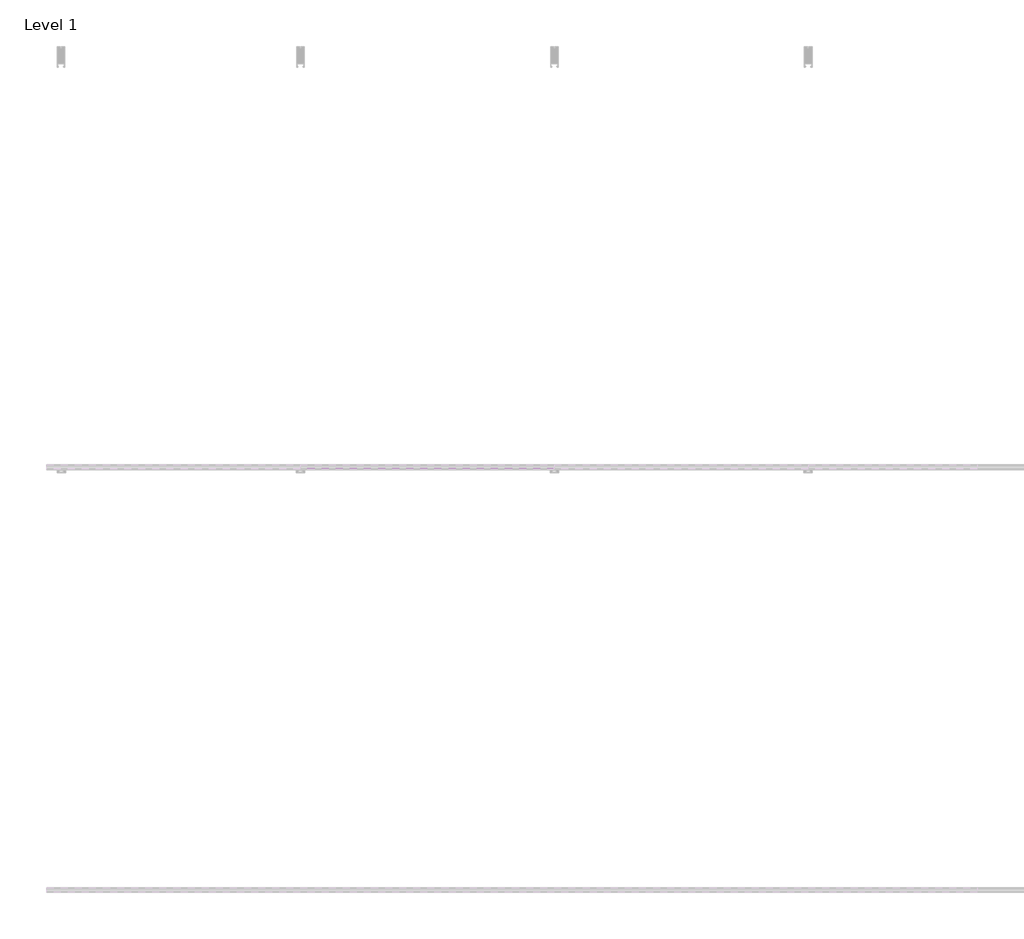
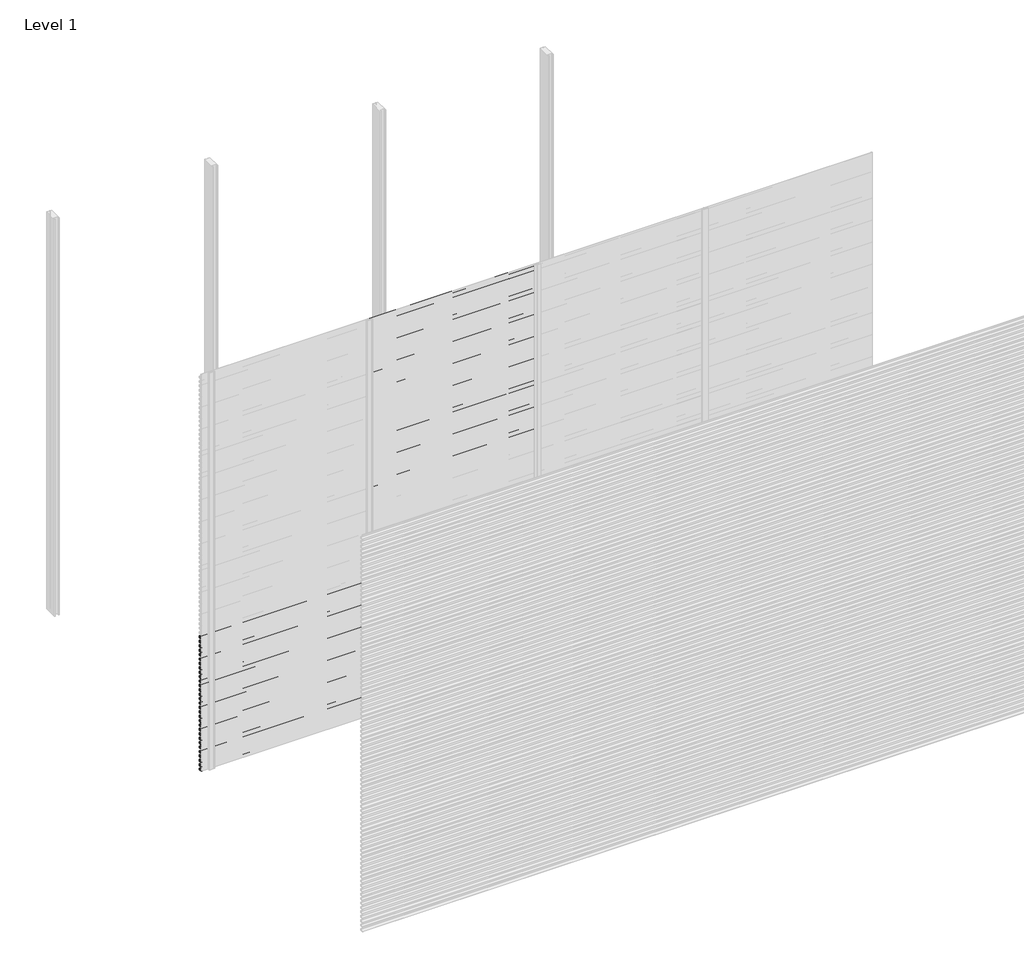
# One storey, part 43 of 77: 72 proxies.
"""IFC4 building model written with IfcOpenShell, lengths in millimetres."""

from ifc_helpers import new_model, si_unit, frame, origin, place, context, project, spatial, polyline, outline, extrude, element, save

model = new_model("IFC4")

# Units and contexts
model_context = context("Model", 3, world=origin())
ifc_project = project(units=[si_unit("LENGTHUNIT", "METRE", prefix="MILLI")], contexts=[model_context])

# Site, building, storey
site = spatial("IfcSite", under=ifc_project)
building = spatial("IfcBuilding", under=site)
storey = spatial("IfcBuildingStorey", under=building, Name="Level 1", Elevation=0.0)

# Proxies
placement = place(None, origin())
element("IfcBuildingElementProxy", 1, Name="Wall Sweeps", at=placement, inside=storey, context=model_context, shape_type="SweptSolid", body=[
    extrude(outline(polyline([(-23978.6, 1007.8359887), (-23998.0, 1019.0366691), (-23998.0, 1032.3), (-23997.0, 1032.3), (-23997.0, 1019.6191057), (-23977.6, 1008.4185105), (-23977.6, 994.8185105), (-23978.6, 996.3953129), (-23978.6, 1002.2032062), (-23995.9773817, 994.1), (-23996.4, 995.0063078), (-23978.6, 1003.3065841), (-23978.6, 1007.8359887)])), frame((0.0, 0.0, 0.0), z_axis=(1.0, 0.0, 0.0), x_axis=(0.0, 1.0, 0.0)), (0.0, 0.0, 1.0), 1200.0),
])
element("IfcBuildingElementProxy", 2, Name="Wall Sweeps", at=placement, inside=storey, context=model_context, shape_type="SweptSolid", body=[
    extrude(outline(polyline([(-23978.6, 974.5359887), (-23998.0, 985.7366691), (-23998.0, 999.0), (-23997.0, 999.0), (-23997.0, 986.3191057), (-23977.6, 975.1185105), (-23977.6, 961.5185105), (-23978.6, 963.0953129), (-23978.6, 968.9032062), (-23995.9773817, 960.8), (-23996.4, 961.7063078), (-23978.6, 970.0065841), (-23978.6, 974.5359887)])), frame((0.0, 0.0, 0.0), z_axis=(1.0, 0.0, 0.0), x_axis=(0.0, 1.0, 0.0)), (0.0, 0.0, 1.0), 1200.0),
])
element("IfcBuildingElementProxy", 3, Name="Wall Sweeps", at=placement, inside=storey, context=model_context, shape_type="SweptSolid", body=[
    extrude(outline(polyline([(-23978.6, 941.2359887), (-23998.0, 952.4366691), (-23998.0, 965.7), (-23997.0, 965.7), (-23997.0, 953.0191057), (-23977.6, 941.8185105), (-23977.6, 928.2185105), (-23978.6, 929.7953129), (-23978.6, 935.6032062), (-23995.9773817, 927.5), (-23996.4, 928.4063078), (-23978.6, 936.7065841), (-23978.6, 941.2359887)])), frame((0.0, 0.0, 0.0), z_axis=(1.0, 0.0, 0.0), x_axis=(0.0, 1.0, 0.0)), (0.0, 0.0, 1.0), 1200.0),
])
element("IfcBuildingElementProxy", 4, Name="Wall Sweeps", at=placement, inside=storey, context=model_context, shape_type="SweptSolid", body=[
    extrude(outline(polyline([(-23978.6, 907.9359887), (-23998.0, 919.1366691), (-23998.0, 932.4), (-23997.0, 932.4), (-23997.0, 919.7191057), (-23977.6, 908.5185105), (-23977.6, 894.9185105), (-23978.6, 896.4953129), (-23978.6, 902.3032062), (-23995.9773817, 894.2), (-23996.4, 895.1063078), (-23978.6, 903.4065841), (-23978.6, 907.9359887)])), frame((0.0, 0.0, 0.0), z_axis=(1.0, 0.0, 0.0), x_axis=(0.0, 1.0, 0.0)), (0.0, 0.0, 1.0), 1200.0),
])
element("IfcBuildingElementProxy", 5, Name="Wall Sweeps", at=placement, inside=storey, context=model_context, shape_type="SweptSolid", body=[
    extrude(outline(polyline([(-23978.6, 874.6359887), (-23998.0, 885.8366691), (-23998.0, 899.1), (-23997.0, 899.1), (-23997.0, 886.4191057), (-23977.6, 875.2185105), (-23977.6, 861.6185105), (-23978.6, 863.1953129), (-23978.6, 869.0032062), (-23995.9773817, 860.9), (-23996.4, 861.8063078), (-23978.6, 870.1065841), (-23978.6, 874.6359887)])), frame((0.0, 0.0, 0.0), z_axis=(1.0, 0.0, 0.0), x_axis=(0.0, 1.0, 0.0)), (0.0, 0.0, 1.0), 1200.0),
])
element("IfcBuildingElementProxy", 6, Name="Wall Sweeps", at=placement, inside=storey, context=model_context, shape_type="SweptSolid", body=[
    extrude(outline(polyline([(-23978.6, 841.3359887), (-23998.0, 852.5366691), (-23998.0, 865.8), (-23997.0, 865.8), (-23997.0, 853.1191057), (-23977.6, 841.9185105), (-23977.6, 828.3185105), (-23978.6, 829.8953129), (-23978.6, 835.7032062), (-23995.9773817, 827.6), (-23996.4, 828.5063078), (-23978.6, 836.8065841), (-23978.6, 841.3359887)])), frame((0.0, 0.0, 0.0), z_axis=(1.0, 0.0, 0.0), x_axis=(0.0, 1.0, 0.0)), (0.0, 0.0, 1.0), 1200.0),
])
element("IfcBuildingElementProxy", 7, Name="Wall Sweeps", at=placement, inside=storey, context=model_context, shape_type="SweptSolid", body=[
    extrude(outline(polyline([(-23978.6, 808.0359887), (-23998.0, 819.2366691), (-23998.0, 832.5), (-23997.0, 832.5), (-23997.0, 819.8191057), (-23977.6, 808.6185105), (-23977.6, 795.0185105), (-23978.6, 796.5953129), (-23978.6, 802.4032062), (-23995.9773817, 794.3), (-23996.4, 795.2063078), (-23978.6, 803.5065841), (-23978.6, 808.0359887)])), frame((0.0, 0.0, 0.0), z_axis=(1.0, 0.0, 0.0), x_axis=(0.0, 1.0, 0.0)), (0.0, 0.0, 1.0), 1200.0),
])
element("IfcBuildingElementProxy", 8, Name="Wall Sweeps", at=placement, inside=storey, context=model_context, shape_type="SweptSolid", body=[
    extrude(outline(polyline([(-23978.6, 774.7359887), (-23998.0, 785.9366691), (-23998.0, 799.2), (-23997.0, 799.2), (-23997.0, 786.5191057), (-23977.6, 775.3185105), (-23977.6, 761.7185105), (-23978.6, 763.2953129), (-23978.6, 769.1032062), (-23995.9773817, 761.0), (-23996.4, 761.9063078), (-23978.6, 770.2065841), (-23978.6, 774.7359887)])), frame((0.0, 0.0, 0.0), z_axis=(1.0, 0.0, 0.0), x_axis=(0.0, 1.0, 0.0)), (0.0, 0.0, 1.0), 1200.0),
])
element("IfcBuildingElementProxy", 9, Name="Wall Sweeps", at=placement, inside=storey, context=model_context, shape_type="SweptSolid", body=[
    extrude(outline(polyline([(-23978.6, 741.4359887), (-23998.0, 752.6366691), (-23998.0, 765.9), (-23997.0, 765.9), (-23997.0, 753.2191057), (-23977.6, 742.0185105), (-23977.6, 728.4185105), (-23978.6, 729.9953129), (-23978.6, 735.8032062), (-23995.9773817, 727.7), (-23996.4, 728.6063078), (-23978.6, 736.9065841), (-23978.6, 741.4359887)])), frame((0.0, 0.0, 0.0), z_axis=(1.0, 0.0, 0.0), x_axis=(0.0, 1.0, 0.0)), (0.0, 0.0, 1.0), 1200.0),
])
element("IfcBuildingElementProxy", 10, Name="Wall Sweeps", at=placement, inside=storey, context=model_context, shape_type="SweptSolid", body=[
    extrude(outline(polyline([(-23978.6, 708.1359887), (-23998.0, 719.3366691), (-23998.0, 732.6), (-23997.0, 732.6), (-23997.0, 719.9191057), (-23977.6, 708.7185105), (-23977.6, 695.1185105), (-23978.6, 696.6953129), (-23978.6, 702.5032062), (-23995.9773817, 694.4), (-23996.4, 695.3063078), (-23978.6, 703.6065841), (-23978.6, 708.1359887)])), frame((0.0, 0.0, 0.0), z_axis=(1.0, 0.0, 0.0), x_axis=(0.0, 1.0, 0.0)), (0.0, 0.0, 1.0), 1200.0),
])
element("IfcBuildingElementProxy", 11, Name="Wall Sweeps", at=placement, inside=storey, context=model_context, shape_type="SweptSolid", body=[
    extrude(outline(polyline([(-23978.6, 674.8359887), (-23998.0, 686.0366691), (-23998.0, 699.3), (-23997.0, 699.3), (-23997.0, 686.6191057), (-23977.6, 675.4185105), (-23977.6, 661.8185105), (-23978.6, 663.3953129), (-23978.6, 669.2032062), (-23995.9773817, 661.1), (-23996.4, 662.0063078), (-23978.6, 670.3065841), (-23978.6, 674.8359887)])), frame((0.0, 0.0, 0.0), z_axis=(1.0, 0.0, 0.0), x_axis=(0.0, 1.0, 0.0)), (0.0, 0.0, 1.0), 1200.0),
])
element("IfcBuildingElementProxy", 12, Name="Wall Sweeps", at=placement, inside=storey, context=model_context, shape_type="SweptSolid", body=[
    extrude(outline(polyline([(-23978.6, 641.5359887), (-23998.0, 652.7366691), (-23998.0, 666.0), (-23997.0, 666.0), (-23997.0, 653.3191057), (-23977.6, 642.1185105), (-23977.6, 628.5185105), (-23978.6, 630.0953129), (-23978.6, 635.9032062), (-23995.9773817, 627.8), (-23996.4, 628.7063078), (-23978.6, 637.0065841), (-23978.6, 641.5359887)])), frame((0.0, 0.0, 0.0), z_axis=(1.0, 0.0, 0.0), x_axis=(0.0, 1.0, 0.0)), (0.0, 0.0, 1.0), 1200.0),
])
element("IfcBuildingElementProxy", 13, Name="Wall Sweeps", at=placement, inside=storey, context=model_context, shape_type="SweptSolid", body=[
    extrude(outline(polyline([(-23978.6, 608.2359887), (-23998.0, 619.4366691), (-23998.0, 632.7), (-23997.0, 632.7), (-23997.0, 620.0191057), (-23977.6, 608.8185105), (-23977.6, 595.2185105), (-23978.6, 596.7953129), (-23978.6, 602.6032062), (-23995.9773817, 594.5), (-23996.4, 595.4063078), (-23978.6, 603.7065841), (-23978.6, 608.2359887)])), frame((0.0, 0.0, 0.0), z_axis=(1.0, 0.0, 0.0), x_axis=(0.0, 1.0, 0.0)), (0.0, 0.0, 1.0), 1200.0),
])
element("IfcBuildingElementProxy", 14, Name="Wall Sweeps", at=placement, inside=storey, context=model_context, shape_type="SweptSolid", body=[
    extrude(outline(polyline([(-23978.6, 574.9359887), (-23998.0, 586.1366691), (-23998.0, 599.4), (-23997.0, 599.4), (-23997.0, 586.7191057), (-23977.6, 575.5185105), (-23977.6, 561.9185105), (-23978.6, 563.4953129), (-23978.6, 569.3032062), (-23995.9773817, 561.2), (-23996.4, 562.1063078), (-23978.6, 570.4065841), (-23978.6, 574.9359887)])), frame((0.0, 0.0, 0.0), z_axis=(1.0, 0.0, 0.0), x_axis=(0.0, 1.0, 0.0)), (0.0, 0.0, 1.0), 1200.0),
])
element("IfcBuildingElementProxy", 15, Name="Wall Sweeps", at=placement, inside=storey, context=model_context, shape_type="SweptSolid", body=[
    extrude(outline(polyline([(-23978.6, 541.6359887), (-23998.0, 552.8366691), (-23998.0, 566.1), (-23997.0, 566.1), (-23997.0, 553.4191057), (-23977.6, 542.2185105), (-23977.6, 528.6185105), (-23978.6, 530.1953129), (-23978.6, 536.0032062), (-23995.9773817, 527.9), (-23996.4, 528.8063078), (-23978.6, 537.1065841), (-23978.6, 541.6359887)])), frame((0.0, 0.0, 0.0), z_axis=(1.0, 0.0, 0.0), x_axis=(0.0, 1.0, 0.0)), (0.0, 0.0, 1.0), 1200.0),
])
element("IfcBuildingElementProxy", 16, Name="Wall Sweeps", at=placement, inside=storey, context=model_context, shape_type="SweptSolid", body=[
    extrude(outline(polyline([(-23978.6, 508.3359887), (-23998.0, 519.5366691), (-23998.0, 532.8), (-23997.0, 532.8), (-23997.0, 520.1191057), (-23977.6, 508.9185105), (-23977.6, 495.3185105), (-23978.6, 496.8953129), (-23978.6, 502.7032062), (-23995.9773817, 494.6), (-23996.4, 495.5063078), (-23978.6, 503.8065841), (-23978.6, 508.3359887)])), frame((0.0, 0.0, 0.0), z_axis=(1.0, 0.0, 0.0), x_axis=(0.0, 1.0, 0.0)), (0.0, 0.0, 1.0), 1200.0),
])
element("IfcBuildingElementProxy", 17, Name="Wall Sweeps", at=placement, inside=storey, context=model_context, shape_type="SweptSolid", body=[
    extrude(outline(polyline([(-23978.6, 475.0359887), (-23998.0, 486.2366691), (-23998.0, 499.5), (-23997.0, 499.5), (-23997.0, 486.8191057), (-23977.6, 475.6185105), (-23977.6, 462.0185105), (-23978.6, 463.5953129), (-23978.6, 469.4032062), (-23995.9773817, 461.3), (-23996.4, 462.2063078), (-23978.6, 470.5065841), (-23978.6, 475.0359887)])), frame((0.0, 0.0, 0.0), z_axis=(1.0, 0.0, 0.0), x_axis=(0.0, 1.0, 0.0)), (0.0, 0.0, 1.0), 1200.0),
])
element("IfcBuildingElementProxy", 18, Name="Wall Sweeps", at=placement, inside=storey, context=model_context, shape_type="SweptSolid", body=[
    extrude(outline(polyline([(-23978.6, 441.7359887), (-23998.0, 452.9366691), (-23998.0, 466.2), (-23997.0, 466.2), (-23997.0, 453.5191057), (-23977.6, 442.3185105), (-23977.6, 428.7185105), (-23978.6, 430.2953129), (-23978.6, 436.1032062), (-23995.9773817, 428.0), (-23996.4, 428.9063078), (-23978.6, 437.2065841), (-23978.6, 441.7359887)])), frame((0.0, 0.0, 0.0), z_axis=(1.0, 0.0, 0.0), x_axis=(0.0, 1.0, 0.0)), (0.0, 0.0, 1.0), 1200.0),
])
element("IfcBuildingElementProxy", 19, Name="Wall Sweeps", at=placement, inside=storey, context=model_context, shape_type="SweptSolid", body=[
    extrude(outline(polyline([(-23978.6, 408.4359887), (-23998.0, 419.6366691), (-23998.0, 432.9), (-23997.0, 432.9), (-23997.0, 420.2191057), (-23977.6, 409.0185105), (-23977.6, 395.4185105), (-23978.6, 396.9953129), (-23978.6, 402.8032062), (-23995.9773817, 394.7), (-23996.4, 395.6063078), (-23978.6, 403.9065841), (-23978.6, 408.4359887)])), frame((0.0, 0.0, 0.0), z_axis=(1.0, 0.0, 0.0), x_axis=(0.0, 1.0, 0.0)), (0.0, 0.0, 1.0), 1200.0),
])
element("IfcBuildingElementProxy", 20, Name="Wall Sweeps", at=placement, inside=storey, context=model_context, shape_type="SweptSolid", body=[
    extrude(outline(polyline([(-23978.6, 375.1359887), (-23998.0, 386.3366691), (-23998.0, 399.6), (-23997.0, 399.6), (-23997.0, 386.9191057), (-23977.6, 375.7185105), (-23977.6, 362.1185105), (-23978.6, 363.6953129), (-23978.6, 369.5032062), (-23995.9773817, 361.4), (-23996.4, 362.3063078), (-23978.6, 370.6065841), (-23978.6, 375.1359887)])), frame((0.0, 0.0, 0.0), z_axis=(1.0, 0.0, 0.0), x_axis=(0.0, 1.0, 0.0)), (0.0, 0.0, 1.0), 1200.0),
])
element("IfcBuildingElementProxy", 21, Name="Wall Sweeps", at=placement, inside=storey, context=model_context, shape_type="SweptSolid", body=[
    extrude(outline(polyline([(-23978.6, 341.8359887), (-23998.0, 353.0366691), (-23998.0, 366.3), (-23997.0, 366.3), (-23997.0, 353.6191057), (-23977.6, 342.4185105), (-23977.6, 328.8185105), (-23978.6, 330.3953129), (-23978.6, 336.2032062), (-23995.9773817, 328.1), (-23996.4, 329.0063078), (-23978.6, 337.3065841), (-23978.6, 341.8359887)])), frame((0.0, 0.0, 0.0), z_axis=(1.0, 0.0, 0.0), x_axis=(0.0, 1.0, 0.0)), (0.0, 0.0, 1.0), 1200.0),
])
element("IfcBuildingElementProxy", 22, Name="Wall Sweeps", at=placement, inside=storey, context=model_context, shape_type="SweptSolid", body=[
    extrude(outline(polyline([(-23978.6, 308.5359887), (-23998.0, 319.7366691), (-23998.0, 333.0), (-23997.0, 333.0), (-23997.0, 320.3191057), (-23977.6, 309.1185105), (-23977.6, 295.5185105), (-23978.6, 297.0953129), (-23978.6, 302.9032062), (-23995.9773817, 294.8), (-23996.4, 295.7063078), (-23978.6, 304.0065841), (-23978.6, 308.5359887)])), frame((0.0, 0.0, 0.0), z_axis=(1.0, 0.0, 0.0), x_axis=(0.0, 1.0, 0.0)), (0.0, 0.0, 1.0), 1200.0),
])
element("IfcBuildingElementProxy", 23, Name="Wall Sweeps", at=placement, inside=storey, context=model_context, shape_type="SweptSolid", body=[
    extrude(outline(polyline([(-23978.6, 275.2359887), (-23998.0, 286.4366691), (-23998.0, 299.7), (-23997.0, 299.7), (-23997.0, 287.0191057), (-23977.6, 275.8185105), (-23977.6, 262.2185105), (-23978.6, 263.7953129), (-23978.6, 269.6032062), (-23995.9773817, 261.5), (-23996.4, 262.4063078), (-23978.6, 270.7065841), (-23978.6, 275.2359887)])), frame((0.0, 0.0, 0.0), z_axis=(1.0, 0.0, 0.0), x_axis=(0.0, 1.0, 0.0)), (0.0, 0.0, 1.0), 1200.0),
])
element("IfcBuildingElementProxy", 24, Name="Wall Sweeps", at=placement, inside=storey, context=model_context, shape_type="SweptSolid", body=[
    extrude(outline(polyline([(-23978.6, 241.9359887), (-23998.0, 253.1366691), (-23998.0, 266.4), (-23997.0, 266.4), (-23997.0, 253.7191057), (-23977.6, 242.5185105), (-23977.6, 228.9185105), (-23978.6, 230.4953129), (-23978.6, 236.3032062), (-23995.9773817, 228.2), (-23996.4, 229.1063078), (-23978.6, 237.4065841), (-23978.6, 241.9359887)])), frame((0.0, 0.0, 0.0), z_axis=(1.0, 0.0, 0.0), x_axis=(0.0, 1.0, 0.0)), (0.0, 0.0, 1.0), 1200.0),
])
element("IfcBuildingElementProxy", 25, Name="Wall Sweeps", at=placement, inside=storey, context=model_context, shape_type="SweptSolid", body=[
    extrude(outline(polyline([(-23978.6, 208.6359887), (-23998.0, 219.8366691), (-23998.0, 233.1), (-23997.0, 233.1), (-23997.0, 220.4191057), (-23977.6, 209.2185105), (-23977.6, 195.6185105), (-23978.6, 197.1953129), (-23978.6, 203.0032062), (-23995.9773817, 194.9), (-23996.4, 195.8063078), (-23978.6, 204.1065841), (-23978.6, 208.6359887)])), frame((0.0, 0.0, 0.0), z_axis=(1.0, 0.0, 0.0), x_axis=(0.0, 1.0, 0.0)), (0.0, 0.0, 1.0), 1200.0),
])
element("IfcBuildingElementProxy", 26, Name="Wall Sweeps", at=placement, inside=storey, context=model_context, shape_type="SweptSolid", body=[
    extrude(outline(polyline([(-23978.6, 175.3359887), (-23998.0, 186.5366691), (-23998.0, 199.8), (-23997.0, 199.8), (-23997.0, 187.1191057), (-23977.6, 175.9185105), (-23977.6, 162.3185105), (-23978.6, 163.8953129), (-23978.6, 169.7032062), (-23995.9773817, 161.6), (-23996.4, 162.5063078), (-23978.6, 170.8065841), (-23978.6, 175.3359887)])), frame((0.0, 0.0, 0.0), z_axis=(1.0, 0.0, 0.0), x_axis=(0.0, 1.0, 0.0)), (0.0, 0.0, 1.0), 1200.0),
])
element("IfcBuildingElementProxy", 27, Name="Wall Sweeps", at=placement, inside=storey, context=model_context, shape_type="SweptSolid", body=[
    extrude(outline(polyline([(-23978.6, 142.0359887), (-23998.0, 153.2366691), (-23998.0, 166.5), (-23997.0, 166.5), (-23997.0, 153.8191057), (-23977.6, 142.6185105), (-23977.6, 129.0185105), (-23978.6, 130.5953129), (-23978.6, 136.4032062), (-23995.9773817, 128.3), (-23996.4, 129.2063078), (-23978.6, 137.5065841), (-23978.6, 142.0359887)])), frame((0.0, 0.0, 0.0), z_axis=(1.0, 0.0, 0.0), x_axis=(0.0, 1.0, 0.0)), (0.0, 0.0, 1.0), 1200.0),
])
element("IfcBuildingElementProxy", 28, Name="Wall Sweeps", at=placement, inside=storey, context=model_context, shape_type="SweptSolid", body=[
    extrude(outline(polyline([(-23978.6, 108.7359887), (-23998.0, 119.9366691), (-23998.0, 133.2), (-23997.0, 133.2), (-23997.0, 120.5191057), (-23977.6, 109.3185105), (-23977.6, 95.7185105), (-23978.6, 97.2953129), (-23978.6, 103.1032062), (-23995.9773817, 95.0), (-23996.4, 95.9063078), (-23978.6, 104.2065841), (-23978.6, 108.7359887)])), frame((0.0, 0.0, 0.0), z_axis=(1.0, 0.0, 0.0), x_axis=(0.0, 1.0, 0.0)), (0.0, 0.0, 1.0), 1200.0),
])
element("IfcBuildingElementProxy", 29, Name="Wall Sweeps", at=placement, inside=storey, context=model_context, shape_type="SweptSolid", body=[
    extrude(outline(polyline([(-23978.6, 75.4359887), (-23998.0, 86.6366691), (-23998.0, 99.9), (-23997.0, 99.9), (-23997.0, 87.2191057), (-23977.6, 76.0185105), (-23977.6, 62.4185105), (-23978.6, 63.9953129), (-23978.6, 69.8032062), (-23995.9773817, 61.7), (-23996.4, 62.6063078), (-23978.6, 70.9065841), (-23978.6, 75.4359887)])), frame((0.0, 0.0, 0.0), z_axis=(1.0, 0.0, 0.0), x_axis=(0.0, 1.0, 0.0)), (0.0, 0.0, 1.0), 1200.0),
])
element("IfcBuildingElementProxy", 30, Name="Wall Sweeps", at=placement, inside=storey, context=model_context, shape_type="SweptSolid", body=[
    extrude(outline(polyline([(-23978.6, 42.1359887), (-23998.0, 53.3366691), (-23998.0, 66.6), (-23997.0, 66.6), (-23997.0, 53.9191057), (-23977.6, 42.7185105), (-23977.6, 29.1185105), (-23978.6, 30.6953129), (-23978.6, 36.5032062), (-23995.9773817, 28.4), (-23996.4, 29.3063078), (-23978.6, 37.6065841), (-23978.6, 42.1359887)])), frame((0.0, 0.0, 0.0), z_axis=(1.0, 0.0, 0.0), x_axis=(0.0, 1.0, 0.0)), (0.0, 0.0, 1.0), 1200.0),
])
element("IfcBuildingElementProxy", 31, Name="Wall Sweeps", at=placement, inside=storey, context=model_context, shape_type="SweptSolid", body=[
    extrude(outline(polyline([(-23978.6, 8.8359887), (-23998.0, 20.0366691), (-23998.0, 33.3), (-23997.0, 33.3), (-23997.0, 20.6191057), (-23977.6, 9.4185105), (-23977.6, -4.1814895), (-23978.6, -2.6046871), (-23978.6, 3.2032062), (-23995.9773817, -4.9), (-23996.4, -3.9936922), (-23978.6, 4.3065841), (-23978.6, 8.8359887)])), frame((0.0, 0.0, 0.0), z_axis=(1.0, 0.0, 0.0), x_axis=(0.0, 1.0, 0.0)), (0.0, 0.0, 1.0), 1200.0),
])
element("IfcBuildingElementProxy", 32, Name="Wall Sweeps", at=placement, inside=storey, context=model_context, shape_type="SweptSolid", body=[
    extrude(outline(polyline([(-23978.6, 2972.5359887), (-23998.0, 2983.7366691), (-23998.0, 2997.0), (-23997.0, 2997.0), (-23997.0, 2984.3191057), (-23977.6, 2973.1185105), (-23977.6, 2959.5185105), (-23978.6, 2961.0953129), (-23978.6, 2966.9032062), (-23995.9773817, 2958.8), (-23996.4, 2959.7063078), (-23978.6, 2968.0065841), (-23978.6, 2972.5359887)])), frame((1200.0, 0.0, 0.0), z_axis=(1.0, 0.0, 0.0), x_axis=(0.0, 1.0, 0.0)), (0.0, 0.0, 1.0), 1200.0),
])
element("IfcBuildingElementProxy", 33, Name="Wall Sweeps", at=placement, inside=storey, context=model_context, shape_type="SweptSolid", body=[
    extrude(outline(polyline([(-23978.6, 2939.2359887), (-23998.0, 2950.4366691), (-23998.0, 2963.7), (-23997.0, 2963.7), (-23997.0, 2951.0191057), (-23977.6, 2939.8185105), (-23977.6, 2926.2185105), (-23978.6, 2927.7953129), (-23978.6, 2933.6032062), (-23995.9773817, 2925.5), (-23996.4, 2926.4063078), (-23978.6, 2934.7065841), (-23978.6, 2939.2359887)])), frame((1200.0, 0.0, 0.0), z_axis=(1.0, 0.0, 0.0), x_axis=(0.0, 1.0, 0.0)), (0.0, 0.0, 1.0), 1200.0),
])
element("IfcBuildingElementProxy", 34, Name="Wall Sweeps", at=placement, inside=storey, context=model_context, shape_type="SweptSolid", body=[
    extrude(outline(polyline([(-23978.6, 2905.9359887), (-23998.0, 2917.1366691), (-23998.0, 2930.4), (-23997.0, 2930.4), (-23997.0, 2917.7191057), (-23977.6, 2906.5185105), (-23977.6, 2892.9185105), (-23978.6, 2894.4953129), (-23978.6, 2900.3032062), (-23995.9773817, 2892.2), (-23996.4, 2893.1063078), (-23978.6, 2901.4065841), (-23978.6, 2905.9359887)])), frame((1200.0, 0.0, 0.0), z_axis=(1.0, 0.0, 0.0), x_axis=(0.0, 1.0, 0.0)), (0.0, 0.0, 1.0), 1200.0),
])
element("IfcBuildingElementProxy", 35, Name="Wall Sweeps", at=placement, inside=storey, context=model_context, shape_type="SweptSolid", body=[
    extrude(outline(polyline([(-23978.6, 2872.6359887), (-23998.0, 2883.8366691), (-23998.0, 2897.1), (-23997.0, 2897.1), (-23997.0, 2884.4191057), (-23977.6, 2873.2185105), (-23977.6, 2859.6185105), (-23978.6, 2861.1953129), (-23978.6, 2867.0032062), (-23995.9773817, 2858.9), (-23996.4, 2859.8063078), (-23978.6, 2868.1065841), (-23978.6, 2872.6359887)])), frame((1200.0, 0.0, 0.0), z_axis=(1.0, 0.0, 0.0), x_axis=(0.0, 1.0, 0.0)), (0.0, 0.0, 1.0), 1200.0),
])
element("IfcBuildingElementProxy", 36, Name="Wall Sweeps", at=placement, inside=storey, context=model_context, shape_type="SweptSolid", body=[
    extrude(outline(polyline([(-23978.6, 2839.3359887), (-23998.0, 2850.5366691), (-23998.0, 2863.8), (-23997.0, 2863.8), (-23997.0, 2851.1191057), (-23977.6, 2839.9185105), (-23977.6, 2826.3185105), (-23978.6, 2827.8953129), (-23978.6, 2833.7032062), (-23995.9773817, 2825.6), (-23996.4, 2826.5063078), (-23978.6, 2834.8065841), (-23978.6, 2839.3359887)])), frame((1200.0, 0.0, 0.0), z_axis=(1.0, 0.0, 0.0), x_axis=(0.0, 1.0, 0.0)), (0.0, 0.0, 1.0), 1200.0),
])
element("IfcBuildingElementProxy", 37, Name="Wall Sweeps", at=placement, inside=storey, context=model_context, shape_type="SweptSolid", body=[
    extrude(outline(polyline([(-23978.6, 2806.0359887), (-23998.0, 2817.2366691), (-23998.0, 2830.5), (-23997.0, 2830.5), (-23997.0, 2817.8191057), (-23977.6, 2806.6185105), (-23977.6, 2793.0185105), (-23978.6, 2794.5953129), (-23978.6, 2800.4032062), (-23995.9773817, 2792.3), (-23996.4, 2793.2063078), (-23978.6, 2801.5065841), (-23978.6, 2806.0359887)])), frame((1200.0, 0.0, 0.0), z_axis=(1.0, 0.0, 0.0), x_axis=(0.0, 1.0, 0.0)), (0.0, 0.0, 1.0), 1200.0),
])
element("IfcBuildingElementProxy", 38, Name="Wall Sweeps", at=placement, inside=storey, context=model_context, shape_type="SweptSolid", body=[
    extrude(outline(polyline([(-23978.6, 2772.7359887), (-23998.0, 2783.9366691), (-23998.0, 2797.2), (-23997.0, 2797.2), (-23997.0, 2784.5191057), (-23977.6, 2773.3185105), (-23977.6, 2759.7185105), (-23978.6, 2761.2953129), (-23978.6, 2767.1032062), (-23995.9773817, 2759.0), (-23996.4, 2759.9063078), (-23978.6, 2768.2065841), (-23978.6, 2772.7359887)])), frame((1200.0, 0.0, 0.0), z_axis=(1.0, 0.0, 0.0), x_axis=(0.0, 1.0, 0.0)), (0.0, 0.0, 1.0), 1200.0),
])
element("IfcBuildingElementProxy", 39, Name="Wall Sweeps", at=placement, inside=storey, context=model_context, shape_type="SweptSolid", body=[
    extrude(outline(polyline([(-23978.6, 2739.4359887), (-23998.0, 2750.6366691), (-23998.0, 2763.9), (-23997.0, 2763.9), (-23997.0, 2751.2191057), (-23977.6, 2740.0185105), (-23977.6, 2726.4185105), (-23978.6, 2727.9953129), (-23978.6, 2733.8032062), (-23995.9773817, 2725.7), (-23996.4, 2726.6063078), (-23978.6, 2734.9065841), (-23978.6, 2739.4359887)])), frame((1200.0, 0.0, 0.0), z_axis=(1.0, 0.0, 0.0), x_axis=(0.0, 1.0, 0.0)), (0.0, 0.0, 1.0), 1200.0),
])
element("IfcBuildingElementProxy", 40, Name="Wall Sweeps", at=placement, inside=storey, context=model_context, shape_type="SweptSolid", body=[
    extrude(outline(polyline([(-23978.6, 2706.1359887), (-23998.0, 2717.3366691), (-23998.0, 2730.6), (-23997.0, 2730.6), (-23997.0, 2717.9191057), (-23977.6, 2706.7185105), (-23977.6, 2693.1185105), (-23978.6, 2694.6953129), (-23978.6, 2700.5032062), (-23995.9773817, 2692.4), (-23996.4, 2693.3063078), (-23978.6, 2701.6065841), (-23978.6, 2706.1359887)])), frame((1200.0, 0.0, 0.0), z_axis=(1.0, 0.0, 0.0), x_axis=(0.0, 1.0, 0.0)), (0.0, 0.0, 1.0), 1200.0),
])
element("IfcBuildingElementProxy", 41, Name="Wall Sweeps", at=placement, inside=storey, context=model_context, shape_type="SweptSolid", body=[
    extrude(outline(polyline([(-23978.6, 2672.8359887), (-23998.0, 2684.0366691), (-23998.0, 2697.3), (-23997.0, 2697.3), (-23997.0, 2684.6191057), (-23977.6, 2673.4185105), (-23977.6, 2659.8185105), (-23978.6, 2661.3953129), (-23978.6, 2667.2032062), (-23995.9773817, 2659.1), (-23996.4, 2660.0063078), (-23978.6, 2668.3065841), (-23978.6, 2672.8359887)])), frame((1200.0, 0.0, 0.0), z_axis=(1.0, 0.0, 0.0), x_axis=(0.0, 1.0, 0.0)), (0.0, 0.0, 1.0), 1200.0),
])
element("IfcBuildingElementProxy", 42, Name="Wall Sweeps", at=placement, inside=storey, context=model_context, shape_type="SweptSolid", body=[
    extrude(outline(polyline([(-23978.6, 2639.5359887), (-23998.0, 2650.7366691), (-23998.0, 2664.0), (-23997.0, 2664.0), (-23997.0, 2651.3191057), (-23977.6, 2640.1185105), (-23977.6, 2626.5185105), (-23978.6, 2628.0953129), (-23978.6, 2633.9032062), (-23995.9773817, 2625.8), (-23996.4, 2626.7063078), (-23978.6, 2635.0065841), (-23978.6, 2639.5359887)])), frame((1200.0, 0.0, 0.0), z_axis=(1.0, 0.0, 0.0), x_axis=(0.0, 1.0, 0.0)), (0.0, 0.0, 1.0), 1200.0),
])
element("IfcBuildingElementProxy", 43, Name="Wall Sweeps", at=placement, inside=storey, context=model_context, shape_type="SweptSolid", body=[
    extrude(outline(polyline([(-23978.6, 2606.2359887), (-23998.0, 2617.4366691), (-23998.0, 2630.7), (-23997.0, 2630.7), (-23997.0, 2618.0191057), (-23977.6, 2606.8185105), (-23977.6, 2593.2185105), (-23978.6, 2594.7953129), (-23978.6, 2600.6032062), (-23995.9773817, 2592.5), (-23996.4, 2593.4063078), (-23978.6, 2601.7065841), (-23978.6, 2606.2359887)])), frame((1200.0, 0.0, 0.0), z_axis=(1.0, 0.0, 0.0), x_axis=(0.0, 1.0, 0.0)), (0.0, 0.0, 1.0), 1200.0),
])
element("IfcBuildingElementProxy", 44, Name="Wall Sweeps", at=placement, inside=storey, context=model_context, shape_type="SweptSolid", body=[
    extrude(outline(polyline([(-23978.6, 2572.9359887), (-23998.0, 2584.1366691), (-23998.0, 2597.4), (-23997.0, 2597.4), (-23997.0, 2584.7191057), (-23977.6, 2573.5185105), (-23977.6, 2559.9185105), (-23978.6, 2561.4953129), (-23978.6, 2567.3032062), (-23995.9773817, 2559.2), (-23996.4, 2560.1063078), (-23978.6, 2568.4065841), (-23978.6, 2572.9359887)])), frame((1200.0, 0.0, 0.0), z_axis=(1.0, 0.0, 0.0), x_axis=(0.0, 1.0, 0.0)), (0.0, 0.0, 1.0), 1200.0),
])
element("IfcBuildingElementProxy", 45, Name="Wall Sweeps", at=placement, inside=storey, context=model_context, shape_type="SweptSolid", body=[
    extrude(outline(polyline([(-23978.6, 2539.6359887), (-23998.0, 2550.8366691), (-23998.0, 2564.1), (-23997.0, 2564.1), (-23997.0, 2551.4191057), (-23977.6, 2540.2185105), (-23977.6, 2526.6185105), (-23978.6, 2528.1953129), (-23978.6, 2534.0032062), (-23995.9773817, 2525.9), (-23996.4, 2526.8063078), (-23978.6, 2535.1065841), (-23978.6, 2539.6359887)])), frame((1200.0, 0.0, 0.0), z_axis=(1.0, 0.0, 0.0), x_axis=(0.0, 1.0, 0.0)), (0.0, 0.0, 1.0), 1200.0),
])
element("IfcBuildingElementProxy", 46, Name="Wall Sweeps", at=placement, inside=storey, context=model_context, shape_type="SweptSolid", body=[
    extrude(outline(polyline([(-23978.6, 2506.3359887), (-23998.0, 2517.5366691), (-23998.0, 2530.8), (-23997.0, 2530.8), (-23997.0, 2518.1191057), (-23977.6, 2506.9185105), (-23977.6, 2493.3185105), (-23978.6, 2494.8953129), (-23978.6, 2500.7032062), (-23995.9773817, 2492.6), (-23996.4, 2493.5063078), (-23978.6, 2501.8065841), (-23978.6, 2506.3359887)])), frame((1200.0, 0.0, 0.0), z_axis=(1.0, 0.0, 0.0), x_axis=(0.0, 1.0, 0.0)), (0.0, 0.0, 1.0), 1200.0),
])
element("IfcBuildingElementProxy", 47, Name="Wall Sweeps", at=placement, inside=storey, context=model_context, shape_type="SweptSolid", body=[
    extrude(outline(polyline([(-23978.6, 2473.0359887), (-23998.0, 2484.2366691), (-23998.0, 2497.5), (-23997.0, 2497.5), (-23997.0, 2484.8191057), (-23977.6, 2473.6185105), (-23977.6, 2460.0185105), (-23978.6, 2461.5953129), (-23978.6, 2467.4032062), (-23995.9773817, 2459.3), (-23996.4, 2460.2063078), (-23978.6, 2468.5065841), (-23978.6, 2473.0359887)])), frame((1200.0, 0.0, 0.0), z_axis=(1.0, 0.0, 0.0), x_axis=(0.0, 1.0, 0.0)), (0.0, 0.0, 1.0), 1200.0),
])
element("IfcBuildingElementProxy", 48, Name="Wall Sweeps", at=placement, inside=storey, context=model_context, shape_type="SweptSolid", body=[
    extrude(outline(polyline([(-23978.6, 2439.7359887), (-23998.0, 2450.9366691), (-23998.0, 2464.2), (-23997.0, 2464.2), (-23997.0, 2451.5191057), (-23977.6, 2440.3185105), (-23977.6, 2426.7185105), (-23978.6, 2428.2953129), (-23978.6, 2434.1032062), (-23995.9773817, 2426.0), (-23996.4, 2426.9063078), (-23978.6, 2435.2065841), (-23978.6, 2439.7359887)])), frame((1200.0, 0.0, 0.0), z_axis=(1.0, 0.0, 0.0), x_axis=(0.0, 1.0, 0.0)), (0.0, 0.0, 1.0), 1200.0),
])
element("IfcBuildingElementProxy", 49, Name="Wall Sweeps", at=placement, inside=storey, context=model_context, shape_type="SweptSolid", body=[
    extrude(outline(polyline([(-23978.6, 2406.4359887), (-23998.0, 2417.6366691), (-23998.0, 2430.9), (-23997.0, 2430.9), (-23997.0, 2418.2191057), (-23977.6, 2407.0185105), (-23977.6, 2393.4185105), (-23978.6, 2394.9953129), (-23978.6, 2400.8032062), (-23995.9773817, 2392.7), (-23996.4, 2393.6063078), (-23978.6, 2401.9065841), (-23978.6, 2406.4359887)])), frame((1200.0, 0.0, 0.0), z_axis=(1.0, 0.0, 0.0), x_axis=(0.0, 1.0, 0.0)), (0.0, 0.0, 1.0), 1200.0),
])
element("IfcBuildingElementProxy", 50, Name="Wall Sweeps", at=placement, inside=storey, context=model_context, shape_type="SweptSolid", body=[
    extrude(outline(polyline([(-23978.6, 2373.1359887), (-23998.0, 2384.3366691), (-23998.0, 2397.6), (-23997.0, 2397.6), (-23997.0, 2384.9191057), (-23977.6, 2373.7185105), (-23977.6, 2360.1185105), (-23978.6, 2361.6953129), (-23978.6, 2367.5032062), (-23995.9773817, 2359.4), (-23996.4, 2360.3063078), (-23978.6, 2368.6065841), (-23978.6, 2373.1359887)])), frame((1200.0, 0.0, 0.0), z_axis=(1.0, 0.0, 0.0), x_axis=(0.0, 1.0, 0.0)), (0.0, 0.0, 1.0), 1200.0),
])
element("IfcBuildingElementProxy", 51, Name="Wall Sweeps", at=placement, inside=storey, context=model_context, shape_type="SweptSolid", body=[
    extrude(outline(polyline([(-23978.6, 2339.8359887), (-23998.0, 2351.0366691), (-23998.0, 2364.3), (-23997.0, 2364.3), (-23997.0, 2351.6191057), (-23977.6, 2340.4185105), (-23977.6, 2326.8185105), (-23978.6, 2328.3953129), (-23978.6, 2334.2032062), (-23995.9773817, 2326.1), (-23996.4, 2327.0063078), (-23978.6, 2335.3065841), (-23978.6, 2339.8359887)])), frame((1200.0, 0.0, 0.0), z_axis=(1.0, 0.0, 0.0), x_axis=(0.0, 1.0, 0.0)), (0.0, 0.0, 1.0), 1200.0),
])
element("IfcBuildingElementProxy", 52, Name="Wall Sweeps", at=placement, inside=storey, context=model_context, shape_type="SweptSolid", body=[
    extrude(outline(polyline([(-23978.6, 2306.5359887), (-23998.0, 2317.7366691), (-23998.0, 2331.0), (-23997.0, 2331.0), (-23997.0, 2318.3191057), (-23977.6, 2307.1185105), (-23977.6, 2293.5185105), (-23978.6, 2295.0953129), (-23978.6, 2300.9032062), (-23995.9773817, 2292.8), (-23996.4, 2293.7063078), (-23978.6, 2302.0065841), (-23978.6, 2306.5359887)])), frame((1200.0, 0.0, 0.0), z_axis=(1.0, 0.0, 0.0), x_axis=(0.0, 1.0, 0.0)), (0.0, 0.0, 1.0), 1200.0),
])
element("IfcBuildingElementProxy", 53, Name="Wall Sweeps", at=placement, inside=storey, context=model_context, shape_type="SweptSolid", body=[
    extrude(outline(polyline([(-23978.6, 2273.2359887), (-23998.0, 2284.4366691), (-23998.0, 2297.7), (-23997.0, 2297.7), (-23997.0, 2285.0191057), (-23977.6, 2273.8185105), (-23977.6, 2260.2185105), (-23978.6, 2261.7953129), (-23978.6, 2267.6032062), (-23995.9773817, 2259.5), (-23996.4, 2260.4063078), (-23978.6, 2268.7065841), (-23978.6, 2273.2359887)])), frame((1200.0, 0.0, 0.0), z_axis=(1.0, 0.0, 0.0), x_axis=(0.0, 1.0, 0.0)), (0.0, 0.0, 1.0), 1200.0),
])
element("IfcBuildingElementProxy", 54, Name="Wall Sweeps", at=placement, inside=storey, context=model_context, shape_type="SweptSolid", body=[
    extrude(outline(polyline([(-23978.6, 2239.9359887), (-23998.0, 2251.1366691), (-23998.0, 2264.4), (-23997.0, 2264.4), (-23997.0, 2251.7191057), (-23977.6, 2240.5185105), (-23977.6, 2226.9185105), (-23978.6, 2228.4953129), (-23978.6, 2234.3032062), (-23995.9773817, 2226.2), (-23996.4, 2227.1063078), (-23978.6, 2235.4065841), (-23978.6, 2239.9359887)])), frame((1200.0, 0.0, 0.0), z_axis=(1.0, 0.0, 0.0), x_axis=(0.0, 1.0, 0.0)), (0.0, 0.0, 1.0), 1200.0),
])
element("IfcBuildingElementProxy", 55, Name="Wall Sweeps", at=placement, inside=storey, context=model_context, shape_type="SweptSolid", body=[
    extrude(outline(polyline([(-23978.6, 2206.6359887), (-23998.0, 2217.8366691), (-23998.0, 2231.1), (-23997.0, 2231.1), (-23997.0, 2218.4191057), (-23977.6, 2207.2185105), (-23977.6, 2193.6185105), (-23978.6, 2195.1953129), (-23978.6, 2201.0032062), (-23995.9773817, 2192.9), (-23996.4, 2193.8063078), (-23978.6, 2202.1065841), (-23978.6, 2206.6359887)])), frame((1200.0, 0.0, 0.0), z_axis=(1.0, 0.0, 0.0), x_axis=(0.0, 1.0, 0.0)), (0.0, 0.0, 1.0), 1200.0),
])
element("IfcBuildingElementProxy", 56, Name="Wall Sweeps", at=placement, inside=storey, context=model_context, shape_type="SweptSolid", body=[
    extrude(outline(polyline([(-23978.6, 2173.3359887), (-23998.0, 2184.5366691), (-23998.0, 2197.8), (-23997.0, 2197.8), (-23997.0, 2185.1191057), (-23977.6, 2173.9185105), (-23977.6, 2160.3185105), (-23978.6, 2161.8953129), (-23978.6, 2167.7032062), (-23995.9773817, 2159.6), (-23996.4, 2160.5063078), (-23978.6, 2168.8065841), (-23978.6, 2173.3359887)])), frame((1200.0, 0.0, 0.0), z_axis=(1.0, 0.0, 0.0), x_axis=(0.0, 1.0, 0.0)), (0.0, 0.0, 1.0), 1200.0),
])
element("IfcBuildingElementProxy", 57, Name="Wall Sweeps", at=placement, inside=storey, context=model_context, shape_type="SweptSolid", body=[
    extrude(outline(polyline([(-23978.6, 2140.0359887), (-23998.0, 2151.2366691), (-23998.0, 2164.5), (-23997.0, 2164.5), (-23997.0, 2151.8191057), (-23977.6, 2140.6185105), (-23977.6, 2127.0185105), (-23978.6, 2128.5953129), (-23978.6, 2134.4032062), (-23995.9773817, 2126.3), (-23996.4, 2127.2063078), (-23978.6, 2135.5065841), (-23978.6, 2140.0359887)])), frame((1200.0, 0.0, 0.0), z_axis=(1.0, 0.0, 0.0), x_axis=(0.0, 1.0, 0.0)), (0.0, 0.0, 1.0), 1200.0),
])
element("IfcBuildingElementProxy", 58, Name="Wall Sweeps", at=placement, inside=storey, context=model_context, shape_type="SweptSolid", body=[
    extrude(outline(polyline([(-23978.6, 2106.7359887), (-23998.0, 2117.9366691), (-23998.0, 2131.2), (-23997.0, 2131.2), (-23997.0, 2118.5191057), (-23977.6, 2107.3185105), (-23977.6, 2093.7185105), (-23978.6, 2095.2953129), (-23978.6, 2101.1032062), (-23995.9773817, 2093.0), (-23996.4, 2093.9063078), (-23978.6, 2102.2065841), (-23978.6, 2106.7359887)])), frame((1200.0, 0.0, 0.0), z_axis=(1.0, 0.0, 0.0), x_axis=(0.0, 1.0, 0.0)), (0.0, 0.0, 1.0), 1200.0),
])
element("IfcBuildingElementProxy", 59, Name="Wall Sweeps", at=placement, inside=storey, context=model_context, shape_type="SweptSolid", body=[
    extrude(outline(polyline([(-23978.6, 2073.4359887), (-23998.0, 2084.6366691), (-23998.0, 2097.9), (-23997.0, 2097.9), (-23997.0, 2085.2191057), (-23977.6, 2074.0185105), (-23977.6, 2060.4185105), (-23978.6, 2061.9953129), (-23978.6, 2067.8032062), (-23995.9773817, 2059.7), (-23996.4, 2060.6063078), (-23978.6, 2068.9065841), (-23978.6, 2073.4359887)])), frame((1200.0, 0.0, 0.0), z_axis=(1.0, 0.0, 0.0), x_axis=(0.0, 1.0, 0.0)), (0.0, 0.0, 1.0), 1200.0),
])
element("IfcBuildingElementProxy", 60, Name="Wall Sweeps", at=placement, inside=storey, context=model_context, shape_type="SweptSolid", body=[
    extrude(outline(polyline([(-23978.6, 2040.1359887), (-23998.0, 2051.3366691), (-23998.0, 2064.6), (-23997.0, 2064.6), (-23997.0, 2051.9191057), (-23977.6, 2040.7185105), (-23977.6, 2027.1185105), (-23978.6, 2028.6953129), (-23978.6, 2034.5032062), (-23995.9773817, 2026.4), (-23996.4, 2027.3063078), (-23978.6, 2035.6065841), (-23978.6, 2040.1359887)])), frame((1200.0, 0.0, 0.0), z_axis=(1.0, 0.0, 0.0), x_axis=(0.0, 1.0, 0.0)), (0.0, 0.0, 1.0), 1200.0),
])
element("IfcBuildingElementProxy", 61, Name="Wall Sweeps", at=placement, inside=storey, context=model_context, shape_type="SweptSolid", body=[
    extrude(outline(polyline([(-23978.6, 2006.8359887), (-23998.0, 2018.0366691), (-23998.0, 2031.3), (-23997.0, 2031.3), (-23997.0, 2018.6191057), (-23977.6, 2007.4185105), (-23977.6, 1993.8185105), (-23978.6, 1995.3953129), (-23978.6, 2001.2032062), (-23995.9773817, 1993.1), (-23996.4, 1994.0063078), (-23978.6, 2002.3065841), (-23978.6, 2006.8359887)])), frame((1200.0, 0.0, 0.0), z_axis=(1.0, 0.0, 0.0), x_axis=(0.0, 1.0, 0.0)), (0.0, 0.0, 1.0), 1200.0),
])
element("IfcBuildingElementProxy", 62, Name="Wall Sweeps", at=placement, inside=storey, context=model_context, shape_type="SweptSolid", body=[
    extrude(outline(polyline([(-23978.6, 1973.5359887), (-23998.0, 1984.7366691), (-23998.0, 1998.0), (-23997.0, 1998.0), (-23997.0, 1985.3191057), (-23977.6, 1974.1185105), (-23977.6, 1960.5185105), (-23978.6, 1962.0953129), (-23978.6, 1967.9032062), (-23995.9773817, 1959.8), (-23996.4, 1960.7063078), (-23978.6, 1969.0065841), (-23978.6, 1973.5359887)])), frame((1200.0, 0.0, 0.0), z_axis=(1.0, 0.0, 0.0), x_axis=(0.0, 1.0, 0.0)), (0.0, 0.0, 1.0), 1200.0),
])
element("IfcBuildingElementProxy", 63, Name="Wall Sweeps", at=placement, inside=storey, context=model_context, shape_type="SweptSolid", body=[
    extrude(outline(polyline([(-23978.6, 1940.2359887), (-23998.0, 1951.4366691), (-23998.0, 1964.7), (-23997.0, 1964.7), (-23997.0, 1952.0191057), (-23977.6, 1940.8185105), (-23977.6, 1927.2185105), (-23978.6, 1928.7953129), (-23978.6, 1934.6032062), (-23995.9773817, 1926.5), (-23996.4, 1927.4063078), (-23978.6, 1935.7065841), (-23978.6, 1940.2359887)])), frame((1200.0, 0.0, 0.0), z_axis=(1.0, 0.0, 0.0), x_axis=(0.0, 1.0, 0.0)), (0.0, 0.0, 1.0), 1200.0),
])
element("IfcBuildingElementProxy", 64, Name="Wall Sweeps", at=placement, inside=storey, context=model_context, shape_type="SweptSolid", body=[
    extrude(outline(polyline([(-23978.6, 1906.9359887), (-23998.0, 1918.1366691), (-23998.0, 1931.4), (-23997.0, 1931.4), (-23997.0, 1918.7191057), (-23977.6, 1907.5185105), (-23977.6, 1893.9185105), (-23978.6, 1895.4953129), (-23978.6, 1901.3032062), (-23995.9773817, 1893.2), (-23996.4, 1894.1063078), (-23978.6, 1902.4065841), (-23978.6, 1906.9359887)])), frame((1200.0, 0.0, 0.0), z_axis=(1.0, 0.0, 0.0), x_axis=(0.0, 1.0, 0.0)), (0.0, 0.0, 1.0), 1200.0),
])
element("IfcBuildingElementProxy", 65, Name="Wall Sweeps", at=placement, inside=storey, context=model_context, shape_type="SweptSolid", body=[
    extrude(outline(polyline([(-23978.6, 1873.6359887), (-23998.0, 1884.8366691), (-23998.0, 1898.1), (-23997.0, 1898.1), (-23997.0, 1885.4191057), (-23977.6, 1874.2185105), (-23977.6, 1860.6185105), (-23978.6, 1862.1953129), (-23978.6, 1868.0032062), (-23995.9773817, 1859.9), (-23996.4, 1860.8063078), (-23978.6, 1869.1065841), (-23978.6, 1873.6359887)])), frame((1200.0, 0.0, 0.0), z_axis=(1.0, 0.0, 0.0), x_axis=(0.0, 1.0, 0.0)), (0.0, 0.0, 1.0), 1200.0),
])
element("IfcBuildingElementProxy", 66, Name="Wall Sweeps", at=placement, inside=storey, context=model_context, shape_type="SweptSolid", body=[
    extrude(outline(polyline([(-23978.6, 1840.3359887), (-23998.0, 1851.5366691), (-23998.0, 1864.8), (-23997.0, 1864.8), (-23997.0, 1852.1191057), (-23977.6, 1840.9185105), (-23977.6, 1827.3185105), (-23978.6, 1828.8953129), (-23978.6, 1834.7032062), (-23995.9773817, 1826.6), (-23996.4, 1827.5063078), (-23978.6, 1835.8065841), (-23978.6, 1840.3359887)])), frame((1200.0, 0.0, 0.0), z_axis=(1.0, 0.0, 0.0), x_axis=(0.0, 1.0, 0.0)), (0.0, 0.0, 1.0), 1200.0),
])
element("IfcBuildingElementProxy", 67, Name="Wall Sweeps", at=placement, inside=storey, context=model_context, shape_type="SweptSolid", body=[
    extrude(outline(polyline([(-23978.6, 1807.0359887), (-23998.0, 1818.2366691), (-23998.0, 1831.5), (-23997.0, 1831.5), (-23997.0, 1818.8191057), (-23977.6, 1807.6185105), (-23977.6, 1794.0185105), (-23978.6, 1795.5953129), (-23978.6, 1801.4032062), (-23995.9773817, 1793.3), (-23996.4, 1794.2063078), (-23978.6, 1802.5065841), (-23978.6, 1807.0359887)])), frame((1200.0, 0.0, 0.0), z_axis=(1.0, 0.0, 0.0), x_axis=(0.0, 1.0, 0.0)), (0.0, 0.0, 1.0), 1200.0),
])
element("IfcBuildingElementProxy", 68, Name="Wall Sweeps", at=placement, inside=storey, context=model_context, shape_type="SweptSolid", body=[
    extrude(outline(polyline([(-23978.6, 1773.7359887), (-23998.0, 1784.9366691), (-23998.0, 1798.2), (-23997.0, 1798.2), (-23997.0, 1785.5191057), (-23977.6, 1774.3185105), (-23977.6, 1760.7185105), (-23978.6, 1762.2953129), (-23978.6, 1768.1032062), (-23995.9773817, 1760.0), (-23996.4, 1760.9063078), (-23978.6, 1769.2065841), (-23978.6, 1773.7359887)])), frame((1200.0, 0.0, 0.0), z_axis=(1.0, 0.0, 0.0), x_axis=(0.0, 1.0, 0.0)), (0.0, 0.0, 1.0), 1200.0),
])
element("IfcBuildingElementProxy", 69, Name="Wall Sweeps", at=placement, inside=storey, context=model_context, shape_type="SweptSolid", body=[
    extrude(outline(polyline([(-23978.6, 1740.4359887), (-23998.0, 1751.6366691), (-23998.0, 1764.9), (-23997.0, 1764.9), (-23997.0, 1752.2191057), (-23977.6, 1741.0185105), (-23977.6, 1727.4185105), (-23978.6, 1728.9953129), (-23978.6, 1734.8032062), (-23995.9773817, 1726.7), (-23996.4, 1727.6063078), (-23978.6, 1735.9065841), (-23978.6, 1740.4359887)])), frame((1200.0, 0.0, 0.0), z_axis=(1.0, 0.0, 0.0), x_axis=(0.0, 1.0, 0.0)), (0.0, 0.0, 1.0), 1200.0),
])
element("IfcBuildingElementProxy", 70, Name="Wall Sweeps", at=placement, inside=storey, context=model_context, shape_type="SweptSolid", body=[
    extrude(outline(polyline([(-23978.6, 1707.1359887), (-23998.0, 1718.3366691), (-23998.0, 1731.6), (-23997.0, 1731.6), (-23997.0, 1718.9191057), (-23977.6, 1707.7185105), (-23977.6, 1694.1185105), (-23978.6, 1695.6953129), (-23978.6, 1701.5032062), (-23995.9773817, 1693.4), (-23996.4, 1694.3063078), (-23978.6, 1702.6065841), (-23978.6, 1707.1359887)])), frame((1200.0, 0.0, 0.0), z_axis=(1.0, 0.0, 0.0), x_axis=(0.0, 1.0, 0.0)), (0.0, 0.0, 1.0), 1200.0),
])
element("IfcBuildingElementProxy", 71, Name="Wall Sweeps", at=placement, inside=storey, context=model_context, shape_type="SweptSolid", body=[
    extrude(outline(polyline([(-23978.6, 1673.8359887), (-23998.0, 1685.0366691), (-23998.0, 1698.3), (-23997.0, 1698.3), (-23997.0, 1685.6191057), (-23977.6, 1674.4185105), (-23977.6, 1660.8185105), (-23978.6, 1662.3953129), (-23978.6, 1668.2032062), (-23995.9773817, 1660.1), (-23996.4, 1661.0063078), (-23978.6, 1669.3065841), (-23978.6, 1673.8359887)])), frame((1200.0, 0.0, 0.0), z_axis=(1.0, 0.0, 0.0), x_axis=(0.0, 1.0, 0.0)), (0.0, 0.0, 1.0), 1200.0),
])
element("IfcBuildingElementProxy", 72, Name="Wall Sweeps", at=placement, inside=storey, context=model_context, shape_type="SweptSolid", body=[
    extrude(outline(polyline([(-23978.6, 1640.5359887), (-23998.0, 1651.7366691), (-23998.0, 1665.0), (-23997.0, 1665.0), (-23997.0, 1652.3191057), (-23977.6, 1641.1185105), (-23977.6, 1627.5185105), (-23978.6, 1629.0953129), (-23978.6, 1634.9032062), (-23995.9773817, 1626.8), (-23996.4, 1627.7063078), (-23978.6, 1636.0065841), (-23978.6, 1640.5359887)])), frame((1200.0, 0.0, 0.0), z_axis=(1.0, 0.0, 0.0), x_axis=(0.0, 1.0, 0.0)), (0.0, 0.0, 1.0), 1200.0),
])

save(model, "model.ifc")
